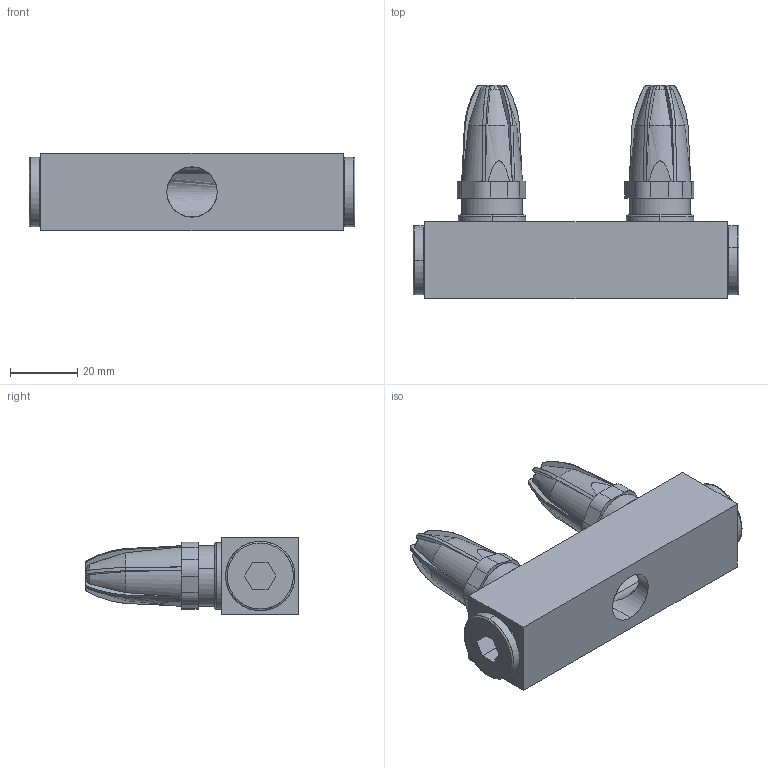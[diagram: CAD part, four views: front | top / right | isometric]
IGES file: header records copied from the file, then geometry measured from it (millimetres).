
Start section: SolidWorks IGES file using analytic representation for surfaces
Global section: file name: G:\Silvent\Ritningar\Övrigt\IGES\Silvent 302+L.IGS; native system: SolidWorks 2006 by SolidWorks Corporation; preprocessor: SolidWorks 2006 by SolidWorks Corporation; author: SilvRaTi; date: 070308.084637; units: millimetre
Bounding box: 97 x 63.65 x 23 mm (x, y, z)
Surface area: 24621.7 mm2 (no closed solid volume)
Topology: 0 solids, 0 shells, 232 faces, 3058 edges, 3058 vertices
Faces by surface type: bspline 122, revolution 110
